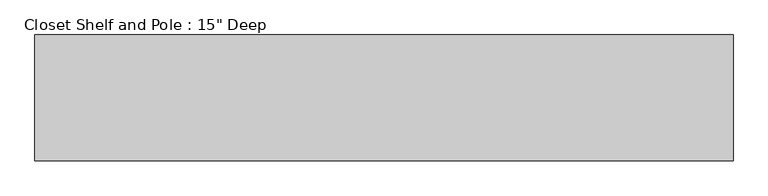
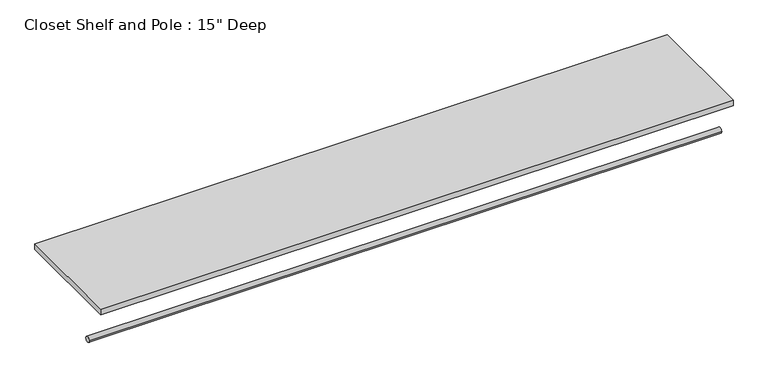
"""IFC4 building model written with IfcOpenShell, lengths in millimetres: proxy geometry."""

import ifcopenshell
import ifcopenshell.guid

model = None  # the IFC model being written
_history = None  # IfcOwnerHistory: only IFC2X3 demands one
_inside = {}  # id of a spatial element -> (the spatial element, [elements in it])
_under = {}  # id of a project, library or spatial element -> (it, [spatial elements below it])
_declared = {}  # id of a project -> (the project, [libraries it declares])
_typed = {}  # id of a type object -> (the type object, [elements of that type])
_made_of = {}  # id of a material, layer set ... -> (it, [elements and type objects made of it])


def new_model(schema):
    """Start an empty IFC model of exactly this schema.

    Asked for "IFC4X3", IfcOpenShell would pick the latest addendum, in which some entities
    have other attributes; the version numbers below select the first issue.
    IFC2X3 requires an IfcOwnerHistory on every rooted entity: one is made here for all.
    """
    global model, _history
    if schema == "IFC4X3":
        model = ifcopenshell.file(schema_version=(4, 3, 0, 0))
    else:
        model = ifcopenshell.file(schema=schema)
    _inside.clear()
    _under.clear()
    _declared.clear()
    _typed.clear()
    _made_of.clear()
    _history = None
    if model.schema == "IFC2X3":
        org = make("IfcOrganization", Name="unknown")
        user = make(
            "IfcPersonAndOrganization",
            ThePerson=make("IfcPerson", FamilyName="unknown"),
            TheOrganization=org,
        )
        app = make(
            "IfcApplication",
            ApplicationDeveloper=org,
            Version="unknown",
            ApplicationFullName="unknown",
            ApplicationIdentifier="unknown",
        )
        _history = make(
            "IfcOwnerHistory",
            OwningUser=user,
            OwningApplication=app,
            ChangeAction="ADDED",
            CreationDate=0,
        )
    return model


def make(cls, **values):
    """One entity of the class cls with the attributes given. An attribute that is None is left unset."""
    return model.create_entity(
        cls, **{name: value for name, value in values.items() if value is not None}
    )


def rooted(cls, **values):
    """An entity with a GlobalId (a new one), such as an element, a storey or a relation."""
    return make(cls, GlobalId=ifcopenshell.guid.new(), OwnerHistory=_history, **values)


def si_unit(unit_type, name, prefix=None):
    """IfcSIUnit, for example si_unit("LENGTHUNIT", "METRE", prefix="MILLI")."""
    return make("IfcSIUnit", UnitType=unit_type, Prefix=prefix, Name=name)


def assignment(units):
    """IfcUnitAssignment: the units of a project."""
    return None if units is None else make("IfcUnitAssignment", Units=units)


def point(xyz):
    """IfcCartesianPoint."""
    return None if xyz is None else make("IfcCartesianPoint", Coordinates=xyz)


def direction(xyz):
    """IfcDirection."""
    return None if xyz is None else make("IfcDirection", DirectionRatios=xyz)


def frame(location, z_axis=None, x_axis=None):
    """IfcAxis2Placement3D, a coordinate frame: its origin and axes. An axis left out is left unset."""
    return make(
        "IfcAxis2Placement3D",
        Location=point(location),
        Axis=direction(z_axis),
        RefDirection=direction(x_axis),
    )


def frame_2d(location, x_axis=None):
    """IfcAxis2Placement2D, a coordinate frame in the plane: its origin and x axis."""
    return make(
        "IfcAxis2Placement2D", Location=point(location), RefDirection=direction(x_axis)
    )


def origin():
    """The frame at (0, 0, 0) with its axes left unset."""
    return frame((0.0, 0.0, 0.0))


def place(relative_to, where):
    """IfcLocalPlacement: puts the frame where relative to a parent placement (None: the world)."""
    return make(
        "IfcLocalPlacement", PlacementRelTo=relative_to, RelativePlacement=where
    )


def context(
    kind, dimensions, precision=None, world=None, true_north=None, identifier=None
):
    """IfcGeometricRepresentationContext, for example the 3D "Model" context."""
    return make(
        "IfcGeometricRepresentationContext",
        ContextIdentifier=identifier,
        ContextType=kind,
        CoordinateSpaceDimension=dimensions,
        Precision=precision,
        WorldCoordinateSystem=world,
        TrueNorth=true_north,
    )


def project(units=None, contexts=None):
    """IfcProject with its units and contexts."""
    return rooted(
        "IfcProject",
        Name="project",
        RepresentationContexts=contexts,
        UnitsInContext=assignment(units),
    )


def spatial(cls, under=None, at=None, **own):
    """A site, building, storey or space (cls), placed at a placement, below another one or the project."""
    s = rooted(cls, ObjectPlacement=at, **own)
    if under is not None:
        _under.setdefault(under.id(), (under, []))[1].append(s)
    return s


def polyline(points):
    """IfcPolyline through the points."""
    return make("IfcPolyline", Points=[point(p) for p in points])


def circle_curve(where, radius):
    """IfcCircle in the frame where."""
    return make("IfcCircle", Position=where, Radius=radius)


def trimmed(basis, trim1, trim2, sense, master):
    """IfcTrimmedCurve: the piece of a basis curve between two trims."""
    return make(
        "IfcTrimmedCurve",
        BasisCurve=basis,
        Trim1=trim1,
        Trim2=trim2,
        SenseAgreement=sense,
        MasterRepresentation=master,
    )


def segment(curve, same_sense, transition):
    """IfcCompositeCurveSegment."""
    return make(
        "IfcCompositeCurveSegment",
        Transition=transition,
        SameSense=same_sense,
        ParentCurve=curve,
    )


def composite_curve(segments, self_intersect=None):
    """IfcCompositeCurve: segments joined end to end."""
    return make("IfcCompositeCurve", Segments=segments, SelfIntersect=self_intersect)


def outline(outer, holes=None, kind="AREA"):
    """IfcArbitraryClosedProfileDef: a profile drawn as a closed curve; with holes, ...WithVoids."""
    if holes is None:
        return make("IfcArbitraryClosedProfileDef", ProfileType=kind, OuterCurve=outer)
    return make(
        "IfcArbitraryProfileDefWithVoids",
        ProfileType=kind,
        OuterCurve=outer,
        InnerCurves=holes,
    )


def extrude(swept, where, along, depth):
    """IfcExtrudedAreaSolid: the profile swept, set in the frame where, extruded along a direction by depth."""
    return make(
        "IfcExtrudedAreaSolid",
        SweptArea=swept,
        Position=where,
        ExtrudedDirection=direction(along),
        Depth=depth,
    )


def shape(context_of_items, identifier, shape_type, items):
    """IfcShapeRepresentation: the items that make up one representation, for example the "Body"."""
    return make(
        "IfcShapeRepresentation",
        ContextOfItems=context_of_items,
        RepresentationIdentifier=identifier,
        RepresentationType=shape_type,
        Items=items,
    )


def source(mapping_origin, context_of_items, identifier, shape_type, items):
    """IfcRepresentationMap: a shape defined once, which mapped items show again and again."""
    return make(
        "IfcRepresentationMap",
        MappingOrigin=mapping_origin,
        MappedRepresentation=shape(context_of_items, identifier, shape_type, items),
    )


def transform(
    local_origin,
    x_axis=None,
    y_axis=None,
    z_axis=None,
    scale=None,
    scale2=None,
    scale3=None,
    uniform=True,
):
    """IfcCartesianTransformationOperator3D, or its non-uniform kind. x_axis, y_axis, z_axis: its Axis1, 2, 3."""
    if uniform:
        return make(
            "IfcCartesianTransformationOperator3D",
            Axis1=direction(x_axis),
            Axis2=direction(y_axis),
            LocalOrigin=point(local_origin),
            Scale=scale,
            Axis3=direction(z_axis),
        )
    return make(
        "IfcCartesianTransformationOperator3DnonUniform",
        Axis1=direction(x_axis),
        Axis2=direction(y_axis),
        LocalOrigin=point(local_origin),
        Scale=scale,
        Axis3=direction(z_axis),
        Scale2=scale2,
        Scale3=scale3,
    )


def mapped(mapping_source, mapping_target):
    """IfcMappedItem: shows the shape of a source again, moved by a transform."""
    return make(
        "IfcMappedItem", MappingSource=mapping_source, MappingTarget=mapping_target
    )


def made_of(thing, what):
    """Note that an element or type object is made of a material, layer set ...; save() writes the relation."""
    if what is not None:
        _made_of.setdefault(what.id(), (what, []))[1].append(thing)
    return thing


def element(
    cls,
    number,
    at=None,
    inside=None,
    cuts=None,
    type_object=None,
    material=None,
    context=None,
    identifier="Body",
    shape_type=None,
    held_by="IfcProductDefinitionShape",
    body=None,
    shapes=None,
    **own,
):
    """One element of the class cls, such as IfcWall. Its Tag is "e" and its number.

    at: its placement. inside: the storey or other place that contains it. cuts: it is an
    opening in that element (IfcRelVoidsElement). A single representation is given by context,
    identifier, shape_type and body (its items); several are given by shapes. held_by: the class
    of the entity that holds the representations. save() writes the other relations.
    """
    e = rooted(cls, Tag="e%d" % number, ObjectPlacement=at, **own)
    if body is not None:
        shapes = [shape(context, identifier, shape_type, body)]
    if shapes is not None:
        e.Representation = make(held_by, Representations=shapes)
    if inside is not None:
        _inside.setdefault(inside.id(), (inside, []))[1].append(e)
    if cuts is not None:
        rooted(
            "IfcRelVoidsElement", RelatingBuildingElement=cuts, RelatedOpeningElement=e
        )
    if type_object is not None:
        _typed.setdefault(type_object.id(), (type_object, []))[1].append(e)
    return made_of(e, material)


def aggregate(whole, parts):
    """IfcRelAggregates: a whole, such as a stair, and the parts it consists of."""
    return rooted("IfcRelAggregates", RelatingObject=whole, RelatedObjects=parts)


def save(model, path):
    """Write the relations noted so far, then the file.

    IfcRelAggregates (storeys below a building ...), IfcRelContainedInSpatialStructure (elements
    in a storey), IfcRelDefinesByType, IfcRelAssociatesMaterial and IfcRelDeclares: one each for
    every whole, place, type object, material and project.
    """
    for whole, parts in _under.values():
        aggregate(whole, parts)
    for where, things in _inside.values():
        rooted(
            "IfcRelContainedInSpatialStructure",
            RelatedElements=things,
            RelatingStructure=where,
        )
    for kind, things in _typed.values():
        rooted("IfcRelDefinesByType", RelatedObjects=things, RelatingType=kind)
    for what, things in _made_of.values():
        rooted("IfcRelAssociatesMaterial", RelatedObjects=things, RelatingMaterial=what)
    for by, libraries in _declared.values():
        rooted("IfcRelDeclares", RelatingContext=by, RelatedDefinitions=libraries)
    model.write(path)


def proxy_141a8b77(model_context):
    return source(origin(), model_context, "Body", "SweptSolid", [
        extrude(outline(composite_curve([segment(trimmed(circle_curve(frame_2d((-304.8, 1676.4)), 9.525), [point((-314.325, 1676.4))], [point((-295.275, 1676.4))], False, "CARTESIAN"), True, "CONTINUOUS"), segment(trimmed(circle_curve(frame_2d((-304.8, 1676.4)), 9.525), [point((-295.275, 1676.4))], [point((-314.325, 1676.4))], False, "CARTESIAN"), True, "CONTINUOUS")], self_intersect=False)), frame((0.0, 0.0, 0.0), z_axis=(1.0, 0.0, 0.0), x_axis=(0.0, 1.0, 0.0)), (0.0, 0.0, 1.0), 2114.55),
        extrude(outline(polyline([(2114.55, 0.0), (2114.55, -381.0), (0.0, -381.0), (0.0, 0.0), (2114.55, 0.0)])), frame((0.0, 0.0, 1809.75), z_axis=(0.0, 0.0, 1.0), x_axis=(1.0, 0.0, 0.0)), (0.0, 0.0, 1.0), 19.05),
    ])


if __name__ == "__main__":
    model = new_model("IFC4")
    model_context = context("Model", 3, world=origin())
    ifc_project = project(units=[si_unit("LENGTHUNIT", "METRE", prefix="MILLI")], contexts=[model_context])
    site = spatial("IfcSite", under=ifc_project)
    building = spatial("IfcBuilding", under=site)
    placement = place(None, origin())
    proxy_shape = proxy_141a8b77(model_context)
    element("IfcBuildingElementProxy", 1, Name="Closet Shelf and Pole : 15\" Deep", ObjectType="Closet Shelf and Pole : 15\" Deep", at=placement, inside=building, context=model_context, shape_type="MappedRepresentation", body=[
        mapped(proxy_shape, transform((0.0, 0.0, 0.0), x_axis=(1.0, 0.0, 0.0), y_axis=(0.0, 1.0, 0.0), z_axis=(0.0, 0.0, 1.0))),
    ])
    save(model, "model.ifc")
